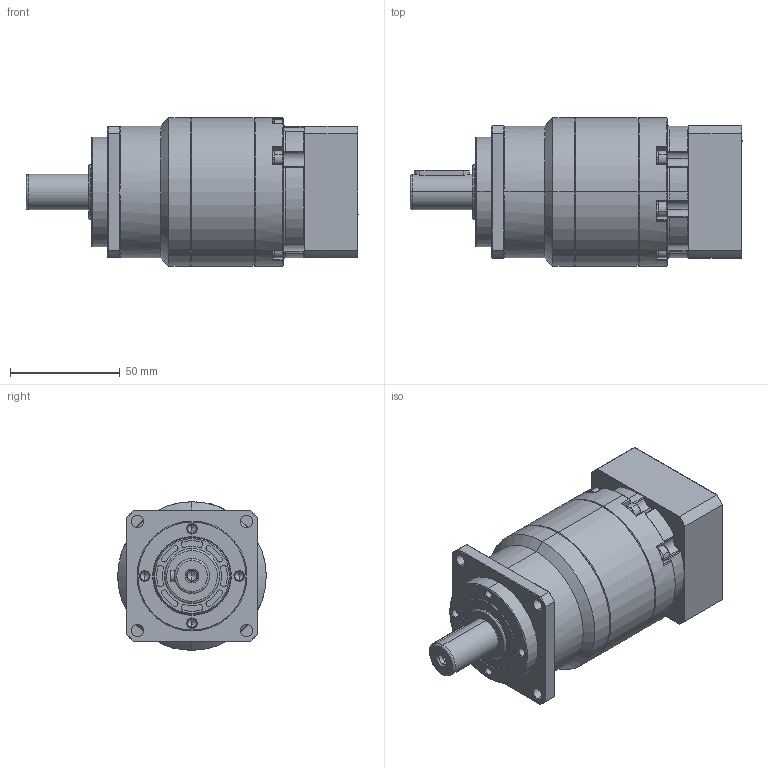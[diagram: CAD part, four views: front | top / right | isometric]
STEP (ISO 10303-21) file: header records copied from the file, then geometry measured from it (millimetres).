
FILE_DESCRIPTION (( 'STEP AP214' ), '1' );
FILE_NAME ('VRB-060-L2-S2-P1 14-50-70-M4.STEP', '2023-08-14T00:48:37', ( '微软用户' ), ( '微软中国' ), 'SwSTEP 2.0', 'SolidWorks 2018', '' );
FILE_SCHEMA (( 'AUTOMOTIVE_DESIGN' ));
Length unit declared in the file: millimetre
Products named in the file (11): 萇儂楊擘VRB-060-D50-M4-70F60H24.5; 二级齿圈VRB-060外形图; 前齿圈加出轴 VRB-060外形图; VRB-060-L2-S2-P1 14-50-70-M4; hex socket set screws with flat point gb_GB_FASTENER_SCREWS_HSFP M10X10-N; 笢潔楊擘VRB-060俋倛芞; hexagon socket head cap screws gb_GB_FASTENER_SCREWS_HSHCS M5X16-N; hexagon socket head cap screws gb_GB_FASTENER_SCREWS_HSHCS M4X16-N; 一级整体太阳轮夹套外形图 VRB-060D14; spring lock washers--normal type gb_GB_FASTENER_WASHER_SW 4; hexagon socket head cap screws gb_GB_FASTENER_SCREWS_HSHCS M4X20-N
Assembly tree (31 placements, depth 2):
  VRB-060-L2-S2-P1 14-50-70-M4
    前齿圈加出轴 VRB-060外形图
    笢潔楊擘VRB-060俋倛芞
    萇儂楊擘VRB-060-D50-M4-70F60H24.5
    一级整体太阳轮夹套外形图 VRB-060D14
    hexagon socket head cap screws gb_GB_FASTENER_SCREWS_HSHCS M5X16-N
    hexagon socket head cap screws gb_GB_FASTENER_SCREWS_HSHCS M4X20-N  x6
    spring lock washers--normal type gb_GB_FASTENER_WASHER_SW 4  x12
    hexagon socket head cap screws gb_GB_FASTENER_SCREWS_HSHCS M4X16-N  x6
    hex socket set screws with flat point gb_GB_FASTENER_SCREWS_HSFP M10X10-N
    二级齿圈VRB-060外形图
Bounding box: 151 x 67.5 x 67.5 mm (x, y, z)
Volume: 284472.8 mm3; surface area: 81570.9 mm2
Topology: 33 solids, 33 shells, 1089 faces, 2671 edges, 1654 vertices
Faces by surface type: plane 409, cylinder 400, cone 216, bspline 64
Entity records: 23604 total; most frequent: CARTESIAN_POINT 5512, DIRECTION 3862, ORIENTED_EDGE 3598, EDGE_CURVE 1799, AXIS2_PLACEMENT_3D 1541, VERTEX_POINT 1138, CIRCLE 822, EDGE_LOOP 819
